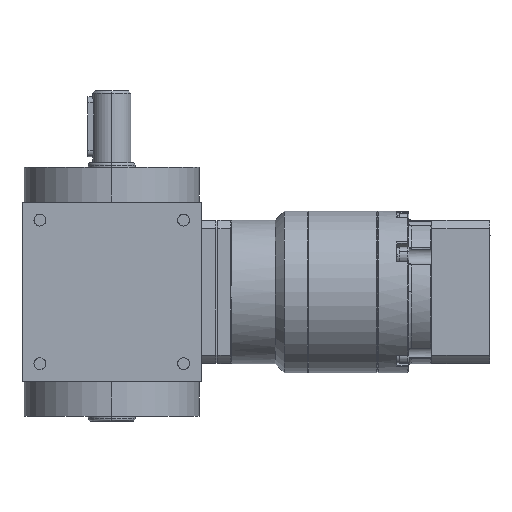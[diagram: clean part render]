
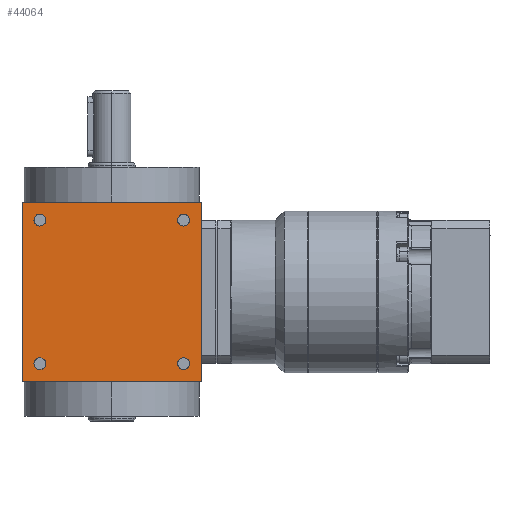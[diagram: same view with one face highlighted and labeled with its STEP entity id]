
A CAD part, left-side view. The second image highlights one B-rep face of the part: STEP entity #44064.
In plain terms, the highlighted planar face has unit normal (-1, 0, 0).
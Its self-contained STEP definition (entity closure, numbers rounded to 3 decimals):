
#168 = ORIENTED_EDGE ( 'NONE', *, *, #42251, .F. ) ;
#320 = LINE ( 'NONE', #16966, #28196 ) ;
#1489 = PLANE ( 'NONE',  #31876 ) ;
#1695 = ORIENTED_EDGE ( 'NONE', *, *, #15839, .T. ) ;
#2125 = DIRECTION ( 'NONE',  ( 0., 0., 1. ) ) ;
#2161 = EDGE_LOOP ( 'NONE', ( #31356, #1695 ) ) ;
#2262 = CARTESIAN_POINT ( 'NONE',  ( -37.5, -30., -27.5 ) ) ;
#2849 = LINE ( 'NONE', #44728, #8060 ) ;
#3204 = EDGE_CURVE ( 'NONE', #44472, #16536, #15527, .T. ) ;
#3624 = EDGE_CURVE ( 'NONE', #11906, #32395, #44944, .T. ) ;
#4927 = DIRECTION ( 'NONE',  ( -1., 0., 0. ) ) ;
#5117 = CIRCLE ( 'NONE', #21115, 2.5 ) ;
#5321 = DIRECTION ( 'NONE',  ( 1., 0., 0. ) ) ;
#5371 = FACE_BOUND ( 'NONE', #12074, .T. ) ;
#5509 = DIRECTION ( 'NONE',  ( 1., 0., 0. ) ) ;
#5696 = CIRCLE ( 'NONE', #28924, 2.5 ) ;
#6154 = CIRCLE ( 'NONE', #20718, 2.5 ) ;
#6932 = CARTESIAN_POINT ( 'NONE',  ( -37.5, -37.5, -37.5 ) ) ;
#8060 = VECTOR ( 'NONE', #9226, 1000. ) ;
#8229 = EDGE_LOOP ( 'NONE', ( #15137, #24263, #43762, #168 ) ) ;
#8420 = EDGE_CURVE ( 'NONE', #40194, #25251, #5696, .T. ) ;
#9226 = DIRECTION ( 'NONE',  ( 0., 0., 1. ) ) ;
#9258 = ORIENTED_EDGE ( 'NONE', *, *, #8420, .T. ) ;
#9941 = EDGE_CURVE ( 'NONE', #16536, #44472, #23265, .T. ) ;
#9981 = VERTEX_POINT ( 'NONE', #36458 ) ;
#10121 = EDGE_LOOP ( 'NONE', ( #9258, #32715 ) ) ;
#10221 = VERTEX_POINT ( 'NONE', #17940 ) ;
#10352 = DIRECTION ( 'NONE',  ( 0., 0., -1. ) ) ;
#11222 = CARTESIAN_POINT ( 'NONE',  ( -37.5, -37.5, 37.5 ) ) ;
#11595 = CARTESIAN_POINT ( 'NONE',  ( -37.5, 37.5, 37.5 ) ) ;
#11906 = VERTEX_POINT ( 'NONE', #11222 ) ;
#12074 = EDGE_LOOP ( 'NONE', ( #37285, #38148 ) ) ;
#12401 = VERTEX_POINT ( 'NONE', #18441 ) ;
#12810 = CARTESIAN_POINT ( 'NONE',  ( -37.5, 30., -30. ) ) ;
#13870 = DIRECTION ( 'NONE',  ( 0., 0., 1. ) ) ;
#13987 = DIRECTION ( 'NONE',  ( 0., -1., 0. ) ) ;
#14592 = DIRECTION ( 'NONE',  ( 0., 0., 1. ) ) ;
#14962 = EDGE_CURVE ( 'NONE', #41021, #28662, #6154, .T. ) ;
#15137 = ORIENTED_EDGE ( 'NONE', *, *, #44173, .F. ) ;
#15158 = CARTESIAN_POINT ( 'NONE',  ( -37.5, 37.5, -37.5 ) ) ;
#15381 = FACE_OUTER_BOUND ( 'NONE', #8229, .T. ) ;
#15527 = CIRCLE ( 'NONE', #41697, 2.5 ) ;
#15653 = CARTESIAN_POINT ( 'NONE',  ( -37.5, 30., 32.5 ) ) ;
#15839 = EDGE_CURVE ( 'NONE', #10221, #9981, #18558, .T. ) ;
#15928 = LINE ( 'NONE', #26617, #21587 ) ;
#16058 = FACE_BOUND ( 'NONE', #25943, .T. ) ;
#16492 = VERTEX_POINT ( 'NONE', #11595 ) ;
#16536 = VERTEX_POINT ( 'NONE', #25695 ) ;
#16966 = CARTESIAN_POINT ( 'NONE',  ( -37.5, 0., -37.5 ) ) ;
#17517 = DIRECTION ( 'NONE',  ( 1., 0., 0. ) ) ;
#17940 = CARTESIAN_POINT ( 'NONE',  ( -37.5, 30., -32.5 ) ) ;
#18314 = CIRCLE ( 'NONE', #25562, 2.5 ) ;
#18441 = CARTESIAN_POINT ( 'NONE',  ( -37.5, 37.5, -37.5 ) ) ;
#18558 = CIRCLE ( 'NONE', #28612, 2.5 ) ;
#18723 = DIRECTION ( 'NONE',  ( 1., 0., 0. ) ) ;
#19030 = FACE_BOUND ( 'NONE', #10121, .T. ) ;
#19960 = EDGE_CURVE ( 'NONE', #25251, #40194, #5117, .T. ) ;
#20611 = CARTESIAN_POINT ( 'NONE',  ( -37.5, -30., -32.5 ) ) ;
#20718 = AXIS2_PLACEMENT_3D ( 'NONE', #34806, #17517, #13870 ) ;
#21115 = AXIS2_PLACEMENT_3D ( 'NONE', #24825, #28013, #41904 ) ;
#21254 = AXIS2_PLACEMENT_3D ( 'NONE', #21490, #31045, #41744 ) ;
#21490 = CARTESIAN_POINT ( 'NONE',  ( -37.5, 30., 30. ) ) ;
#21587 = VECTOR ( 'NONE', #30043, 1000. ) ;
#21833 = AXIS2_PLACEMENT_3D ( 'NONE', #25780, #18723, #29423 ) ;
#22226 = DIRECTION ( 'NONE',  ( 0., 0., 1. ) ) ;
#23265 = CIRCLE ( 'NONE', #21833, 2.5 ) ;
#24263 = ORIENTED_EDGE ( 'NONE', *, *, #30987, .T. ) ;
#24825 = CARTESIAN_POINT ( 'NONE',  ( -37.5, -30., -30. ) ) ;
#24844 = CARTESIAN_POINT ( 'NONE',  ( -37.5, 30., -30. ) ) ;
#25251 = VERTEX_POINT ( 'NONE', #20611 ) ;
#25562 = AXIS2_PLACEMENT_3D ( 'NONE', #24844, #38722, #14592 ) ;
#25578 = CARTESIAN_POINT ( 'NONE',  ( -37.5, -30., 32.5 ) ) ;
#25695 = CARTESIAN_POINT ( 'NONE',  ( -37.5, -30., 27.5 ) ) ;
#25780 = CARTESIAN_POINT ( 'NONE',  ( -37.5, -30., 30. ) ) ;
#25943 = EDGE_LOOP ( 'NONE', ( #26651, #43405 ) ) ;
#26617 = CARTESIAN_POINT ( 'NONE',  ( -37.5, 0., 37.5 ) ) ;
#26651 = ORIENTED_EDGE ( 'NONE', *, *, #27659, .T. ) ;
#27582 = CARTESIAN_POINT ( 'NONE',  ( -37.5, 30., 27.5 ) ) ;
#27659 = EDGE_CURVE ( 'NONE', #28662, #41021, #35796, .T. ) ;
#28013 = DIRECTION ( 'NONE',  ( 1., 0., 0. ) ) ;
#28196 = VECTOR ( 'NONE', #13987, 1000. ) ;
#28612 = AXIS2_PLACEMENT_3D ( 'NONE', #12810, #5321, #2125 ) ;
#28662 = VERTEX_POINT ( 'NONE', #15653 ) ;
#28924 = AXIS2_PLACEMENT_3D ( 'NONE', #36676, #5509, #33713 ) ;
#29423 = DIRECTION ( 'NONE',  ( 0., 0., 1. ) ) ;
#29942 = FACE_BOUND ( 'NONE', #2161, .T. ) ;
#30043 = DIRECTION ( 'NONE',  ( 0., -1., 0. ) ) ;
#30987 = EDGE_CURVE ( 'NONE', #12401, #32395, #320, .T. ) ;
#31045 = DIRECTION ( 'NONE',  ( 1., 0., 0. ) ) ;
#31356 = ORIENTED_EDGE ( 'NONE', *, *, #36652, .T. ) ;
#31876 = AXIS2_PLACEMENT_3D ( 'NONE', #15158, #4927, #22226 ) ;
#32395 = VERTEX_POINT ( 'NONE', #33594 ) ;
#32715 = ORIENTED_EDGE ( 'NONE', *, *, #19960, .T. ) ;
#33594 = CARTESIAN_POINT ( 'NONE',  ( -37.5, -37.5, -37.5 ) ) ;
#33713 = DIRECTION ( 'NONE',  ( 0., 0., 1. ) ) ;
#33856 = DIRECTION ( 'NONE',  ( 1., 0., 0. ) ) ;
#34806 = CARTESIAN_POINT ( 'NONE',  ( -37.5, 30., 30. ) ) ;
#35154 = VECTOR ( 'NONE', #10352, 1000. ) ;
#35796 = CIRCLE ( 'NONE', #21254, 2.5 ) ;
#36458 = CARTESIAN_POINT ( 'NONE',  ( -37.5, 30., -27.5 ) ) ;
#36587 = CARTESIAN_POINT ( 'NONE',  ( -37.5, -30., 30. ) ) ;
#36652 = EDGE_CURVE ( 'NONE', #9981, #10221, #18314, .T. ) ;
#36676 = CARTESIAN_POINT ( 'NONE',  ( -37.5, -30., -30. ) ) ;
#36812 = DIRECTION ( 'NONE',  ( 0., 0., 1. ) ) ;
#37285 = ORIENTED_EDGE ( 'NONE', *, *, #3204, .T. ) ;
#38148 = ORIENTED_EDGE ( 'NONE', *, *, #9941, .T. ) ;
#38722 = DIRECTION ( 'NONE',  ( 1., 0., 0. ) ) ;
#40194 = VERTEX_POINT ( 'NONE', #2262 ) ;
#41021 = VERTEX_POINT ( 'NONE', #27582 ) ;
#41697 = AXIS2_PLACEMENT_3D ( 'NONE', #36587, #33856, #36812 ) ;
#41744 = DIRECTION ( 'NONE',  ( 0., 0., 1. ) ) ;
#41904 = DIRECTION ( 'NONE',  ( 0., 0., 1. ) ) ;
#42251 = EDGE_CURVE ( 'NONE', #16492, #11906, #15928, .T. ) ;
#43405 = ORIENTED_EDGE ( 'NONE', *, *, #14962, .T. ) ;
#43762 = ORIENTED_EDGE ( 'NONE', *, *, #3624, .F. ) ;
#44064 = ADVANCED_FACE ( 'NONE', ( #15381, #5371, #29942, #19030, #16058 ), #1489, .T. ) ;
#44173 = EDGE_CURVE ( 'NONE', #12401, #16492, #2849, .T. ) ;
#44472 = VERTEX_POINT ( 'NONE', #25578 ) ;
#44728 = CARTESIAN_POINT ( 'NONE',  ( -37.5, 37.5, -37.5 ) ) ;
#44944 = LINE ( 'NONE', #6932, #35154 ) ;
